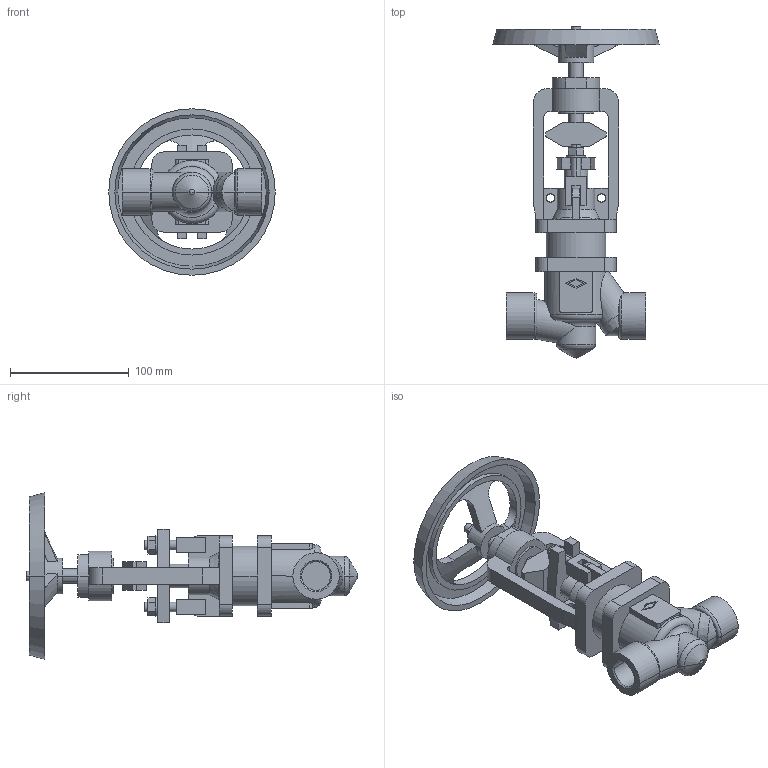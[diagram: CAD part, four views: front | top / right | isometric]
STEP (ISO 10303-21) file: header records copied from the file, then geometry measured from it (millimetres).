
FILE_DESCRIPTION(('OneSpaceDesigner STEP Export'),'2;1');
FILE_NAME('c000004260.stp','2010-05-04T11:08:23',(''),(''),'OneSpace Designer STEP processor for AP214 (Solid Model)','OneSpace Modeling 15.50B 03-Nov-2007 (C) CoCreate Software GmbH','');
FILE_SCHEMA(('AUTOMOTIVE_DESIGN { 1 0 10303 214 1 1 1 1 }'));
Length unit declared in the file: millimetre
Products named in the file (1): 1
Bounding box: 140 x 279.13 x 140 mm (x, y, z)
Volume: 568181.9 mm3; surface area: 119580.9 mm2
Topology: 1 solids, 1 shells, 287 faces, 746 edges, 483 vertices
Faces by surface type: plane 152, cylinder 91, cone 28, torus 14, sphere 2
Entity records: 11077 total; most frequent: CARTESIAN_POINT 2095, ORIENTED_EDGE 1492, DIRECTION 1255, EDGE_CURVE 746, VERTEX_POINT 483, VECTOR 435, LINE 435, AXIS2_PLACEMENT_3D 410
